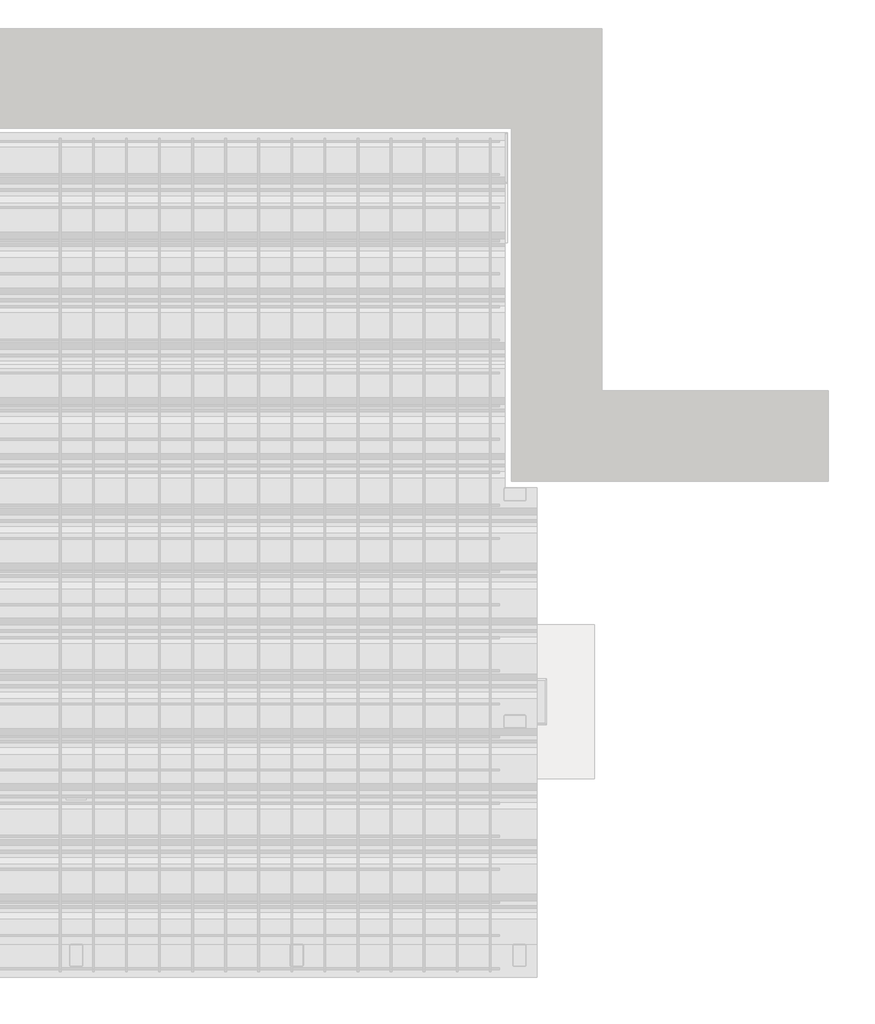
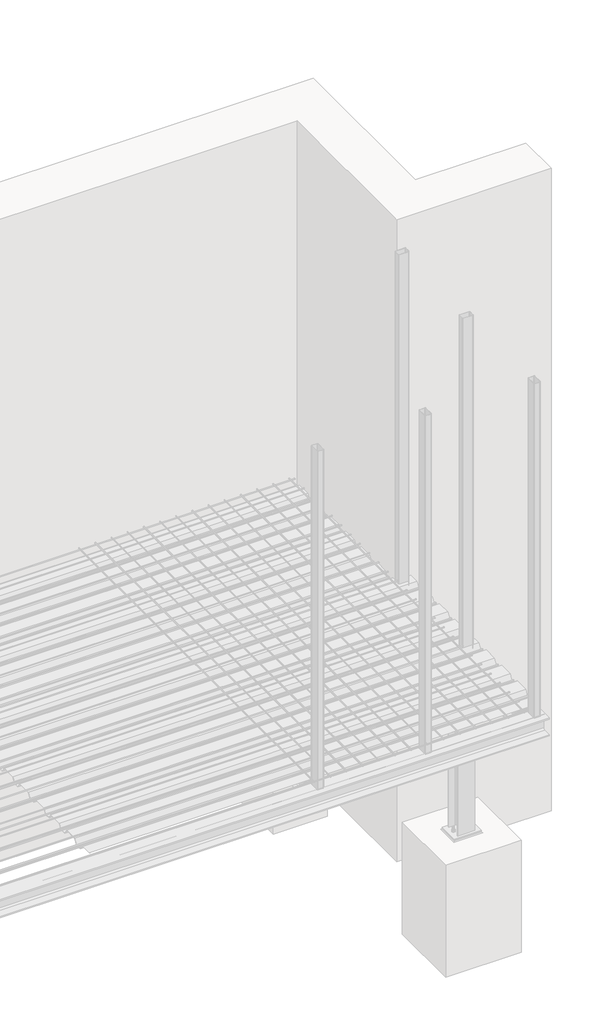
# One storey, part 36 of 36: 3 assemblies.
"""IFC4 building model written with IfcOpenShell, lengths in millimetres."""

from ifc_helpers import new_model, si_unit, point, frame, frame_2d, origin, place, context, project, spatial, polyline, circle_curve, ellipse_curve, trimmed, segment, composite_curve, outline, extrude, faceted_brep, element, save
from ifc_brep_helpers import plane_surface, revolved_surface, advanced_brep

model = new_model("IFC4")

# Units and contexts
model_context = context("Model", 3, world=origin())
ifc_project = project(units=[si_unit("LENGTHUNIT", "METRE", prefix="MILLI")], contexts=[model_context])

# Site, building, storey
site = spatial("IfcSite", under=ifc_project)
building = spatial("IfcBuilding", under=site)
storey = spatial("IfcBuildingStorey", under=building, Name="Základy", Elevation=-1200.0)

# Assemblies
placement = place(None, origin())
element("IfcElementAssembly", 1, at=placement, inside=storey, context=model_context, shape_type="SolidModel", body=[
    advanced_brep(
    [(16140.0, 210.0, -160.0), (15960.0, 210.0, -160.0), (15960.0, 210.0, -174.0), (16030.75, 210.0, -174.0), (16045.75, 210.0, -189.0), (16045.75, 210.0, -311.0), (16030.75, 210.0, -326.0), (15960.0, 210.0, -326.0), (15960.0, 210.0, -340.0), (16140.0, 210.0, -340.0), (16140.0, 210.0, -326.0), (16069.25, 210.0, -326.0), (16054.25, 210.0, -311.0), (16054.25, 210.0, -189.0), (16069.25, 210.0, -174.0), (16140.0, 210.0, -174.0), (16140.0, 2230.0, -160.0), (15960.0, 2050.0, -160.0), (15960.0, 2050.0, -174.0), (16030.75, 2120.75, -174.0), (16045.75, 2135.75, -189.0), (16045.75, 2135.75, -311.0), (16030.75, 2120.75, -326.0), (15960.0, 2050.0, -326.0), (15960.0, 2050.0, -340.0), (16140.0, 2230.0, -340.0), (16140.0, 2230.0, -326.0), (16069.25, 2159.25, -326.0), (16054.25, 2144.25, -311.0), (16054.25, 2144.25, -189.0), (16069.25, 2159.25, -174.0), (16140.0, 2230.0, -174.0)],
    [
        (0, 1),
        (1, 2),
        (2, 3),
        (3, 4, circle_curve(frame((16030.75, 210.0, -189.0), z_axis=(0.0, 1.0, 0.0), x_axis=(-1.0, 0.0, 0.0)), 15.0)),
        (4, 5),
        (5, 6, circle_curve(frame((16030.75, 210.0, -311.0), z_axis=(0.0, 1.0, 0.0), x_axis=(-1.0, 0.0, 0.0)), 15.0)),
        (6, 7),
        (7, 8),
        (8, 9),
        (9, 10),
        (10, 11),
        (11, 12, circle_curve(frame((16069.25, 210.0, -311.0), z_axis=(0.0, 1.0, 0.0), x_axis=(-1.0, 0.0, 0.0)), 15.0)),
        (12, 13),
        (13, 14, circle_curve(frame((16069.25, 210.0, -189.0), z_axis=(0.0, 1.0, 0.0), x_axis=(-1.0, 0.0, 0.0)), 15.0)),
        (14, 15),
        (15, 0),
        (0, 16),
        (16, 17),
        (17, 1),
        (17, 18),
        (18, 2),
        (18, 19),
        (19, 3),
        (19, 20, ellipse_curve(frame((16030.75, 2120.75, -189.0), z_axis=(-0.7071067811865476, 0.7071067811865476, 0.0), x_axis=(0.7071067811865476, 0.7071067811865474, 0.0)), 21.2132034, 15.0)),
        (20, 4),
        (20, 21),
        (21, 5),
        (21, 22, ellipse_curve(frame((16030.75, 2120.75, -311.0), z_axis=(-0.7071067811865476, 0.7071067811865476, 0.0), x_axis=(0.7071067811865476, 0.7071067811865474, 0.0)), 21.2132034, 15.0)),
        (22, 6),
        (22, 23),
        (23, 7),
        (23, 24),
        (24, 8),
        (24, 25),
        (25, 9),
        (25, 26),
        (26, 10),
        (26, 27),
        (27, 11),
        (27, 28, ellipse_curve(frame((16069.25, 2159.25, -311.0), z_axis=(-0.7071067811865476, 0.7071067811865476, 0.0), x_axis=(0.7071067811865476, 0.7071067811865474, 0.0)), 21.2132034, 15.0)),
        (28, 12),
        (28, 29),
        (29, 13),
        (29, 30, ellipse_curve(frame((16069.25, 2159.25, -189.0), z_axis=(-0.7071067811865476, 0.7071067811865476, 0.0), x_axis=(0.7071067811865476, 0.7071067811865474, 0.0)), 21.2132034, 15.0)),
        (30, 14),
        (30, 31),
        (31, 15),
        (31, 16),
    ],
    [
        plane_surface(frame((16050.0, 210.0, -250.0), z_axis=(0.0, -1.0, 0.0), x_axis=(0.0, 0.0, -1.0))),
        plane_surface(frame((16140.0, 210.0, -160.0), z_axis=(0.0, 0.0, 1.0), x_axis=(0.0, 1.0, 0.0))),
        plane_surface(frame((15960.0, 210.0, -160.0), z_axis=(-1.0, 0.0, 0.0), x_axis=(0.0, 1.0, 0.0))),
        plane_surface(frame((15960.0, 210.0, -174.0), z_axis=(0.0, 0.0, -1.0), x_axis=(0.0, 1.0, 0.0))),
        revolved_surface(polyline([(16015.75, 2135.75, -189.0), (16015.75, 210.0, -189.0)]), (16030.75, 2240.0, -189.0), (0.0, 1.0, 0.0)),
        plane_surface(frame((16045.75, 210.0, -189.0), z_axis=(-1.0, 0.0, 0.0), x_axis=(0.0, 1.0, 0.0))),
        revolved_surface(polyline([(16015.75, 2135.75, -311.0), (16015.75, 210.0, -311.0)]), (16030.75, 2240.0, -311.0), (0.0, 1.0, 0.0)),
        plane_surface(frame((16030.75, 210.0, -326.0), z_axis=(0.0, 0.0, 1.0), x_axis=(0.0, 1.0, 0.0))),
        plane_surface(frame((15960.0, 210.0, -326.0), z_axis=(-1.0, 0.0, 0.0), x_axis=(0.0, 1.0, 0.0))),
        plane_surface(frame((15960.0, 210.0, -340.0), z_axis=(0.0, 0.0, -1.0), x_axis=(0.0, 1.0, 0.0))),
        plane_surface(frame((16140.0, 210.0, -340.0), z_axis=(1.0, 0.0, 0.0), x_axis=(0.0, 1.0, 0.0))),
        plane_surface(frame((16140.0, 210.0, -326.0), z_axis=(0.0, 0.0, 1.0), x_axis=(0.0, 1.0, 0.0))),
        revolved_surface(polyline([(16054.25, 2174.2499999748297, -311.0), (16054.25, 210.0, -311.0)]), (16069.25, 2240.0, -311.0), (0.0, 1.0, 0.0)),
        plane_surface(frame((16054.25, 210.0, -311.0), z_axis=(1.0, 0.0, 0.0), x_axis=(0.0, 1.0, 0.0))),
        revolved_surface(polyline([(16054.25, 2174.2499999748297, -189.0), (16054.25, 210.0, -189.0)]), (16069.25, 2240.0, -189.0), (0.0, 1.0, 0.0)),
        plane_surface(frame((16069.25, 210.0, -174.0), z_axis=(0.0, 0.0, -1.0), x_axis=(0.0, 1.0, 0.0))),
        plane_surface(frame((16140.0, 210.0, -174.0), z_axis=(1.0, 0.0, 0.0), x_axis=(0.0, 1.0, 0.0))),
        plane_surface(frame((16150.0, 2240.0, -360.0), z_axis=(-0.7071067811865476, 0.7071067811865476, 0.0), x_axis=(0.7071067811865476, 0.7071067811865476, 0.0))),
    ],
    [
        (0, [[1, 2, 3, 4, 5, 6, 7, 8, 9, 10, 11, 12, 13, 14, 15, 16]]),
        (1, [[-1, 17, 18, 19]]),
        (2, [[-2, -19, 20, 21]]),
        (3, [[-3, -21, 22, 23]]),
        (4, [[-4, -23, 24, 25]]),
        (5, [[-5, -25, 26, 27]]),
        (6, [[-6, -27, 28, 29]]),
        (7, [[-7, -29, 30, 31]]),
        (8, [[-8, -31, 32, 33]]),
        (9, [[-9, -33, 34, 35]]),
        (10, [[-10, -35, 36, 37]]),
        (11, [[-11, -37, 38, 39]]),
        (12, [[-12, -39, 40, 41]]),
        (13, [[-13, -41, 42, 43]]),
        (14, [[-14, -43, 44, 45]]),
        (15, [[-15, -45, 46, 47]]),
        (16, [[-16, -47, 48, -17]]),
        (17, [[-18, -48, -46, -44, -42, -40, -38, -36, -34, -32, -30, -28, -26, -24, -22, -20]]),
    ],
),
    extrude(outline(polyline([(15950.0, 1170.0), (15950.0, 1350.0), (15960.0, 1350.0), (15960.0, 1170.0), (15950.0, 1170.0)])), frame((0.0, 0.0, -332.0), z_axis=(0.0, 0.0, 1.0), x_axis=(1.0, 0.0, 0.0)), (0.0, 0.0, 1.0), 164.0),
    extrude(outline(composite_curve([segment(polyline([(-174.0, 15960.0), (-326.0, 15960.0), (-326.0, 16020.5)]), True, "CONTINUOUS"), segment(trimmed(circle_curve(frame_2d((-326.0, 16045.5)), 25.0), [point((-326.0, 16020.5))], [point((-301.0, 16045.5))], True, "CARTESIAN"), True, "CONTINUOUS"), segment(polyline([(-301.0, 16045.5), (-199.0, 16045.5)]), True, "CONTINUOUS"), segment(trimmed(circle_curve(frame_2d((-174.0, 16045.5)), 25.0), [point((-199.0, 16045.5))], [point((-174.0, 16020.5))], True, "CARTESIAN"), True, "CONTINUOUS"), segment(polyline([(-174.0, 16020.5), (-174.0, 15960.0)]), True, "CONTINUOUS")], self_intersect=False)), frame((0.0, 1256.0, 0.0), z_axis=(0.0, 1.0, 0.0), x_axis=(0.0, 0.0, 1.0)), (0.0, 0.0, 1.0), 8.0),
    extrude(outline(polyline([(15960.0, 210.0), (16140.0, 210.0), (16140.0, 200.0), (15960.0, 200.0), (15960.0, 210.0)])), frame((0.0, 0.0, -332.0), z_axis=(0.0, 0.0, 1.0), x_axis=(1.0, 0.0, 0.0)), (0.0, 0.0, 1.0), 164.0),
    extrude(outline(composite_curve([segment(trimmed(circle_curve(frame_2d((1215.0, -210.0)), 8.5), [point((1215.0, -218.5))], [point((1215.0, -201.5))], False, "CARTESIAN"), True, "CONTINUOUS"), segment(trimmed(circle_curve(frame_2d((1215.0, -210.0)), 8.5), [point((1215.0, -201.5))], [point((1215.0, -218.5))], False, "CARTESIAN"), True, "CONTINUOUS")], self_intersect=False)), frame((15949.9, 0.0, 0.0), z_axis=(1.0, 0.0, 0.0), x_axis=(0.0, 1.0, 0.0)), (0.0, 0.0, 1.0), 10.0),
    extrude(outline(polyline([(1215.0, -223.8564065), (1203.0, -216.9282032), (1203.0, -203.0717968), (1215.0, -196.1435935), (1227.0, -203.0717968), (1227.0, -216.9282032), (1215.0, -223.8564065)])), frame((15963.0, 0.0, 0.0), z_axis=(1.0, 0.0, 0.0), x_axis=(0.0, 1.0, 0.0)), (0.0, 0.0, 1.0), 10.0),
    extrude(outline(composite_curve([segment(trimmed(circle_curve(frame_2d((1215.0, -210.0)), 8.0), [point((1215.0, -218.0))], [point((1215.0, -202.0))], False, "CARTESIAN"), True, "CONTINUOUS"), segment(trimmed(circle_curve(frame_2d((1215.0, -210.0)), 8.0), [point((1215.0, -202.0))], [point((1215.0, -218.0))], False, "CARTESIAN"), True, "CONTINUOUS")], self_intersect=False)), frame((15918.0, 0.0, 0.0), z_axis=(1.0, 0.0, 0.0), x_axis=(0.0, 1.0, 0.0)), (0.0, 0.0, 1.0), 45.0),
    extrude(outline(composite_curve([segment(trimmed(circle_curve(frame_2d((1215.0, -210.0)), 15.0), [point((1215.0, -225.0))], [point((1215.0, -195.0))], False, "CARTESIAN"), True, "CONTINUOUS"), segment(trimmed(circle_curve(frame_2d((1215.0, -210.0)), 15.0), [point((1215.0, -195.0))], [point((1215.0, -225.0))], False, "CARTESIAN"), True, "CONTINUOUS")], self_intersect=False)), frame((15960.0, 0.0, 0.0), z_axis=(1.0, 0.0, 0.0), x_axis=(0.0, 1.0, 0.0)), (0.0, 0.0, 1.0), 3.0),
    extrude(outline(composite_curve([segment(trimmed(circle_curve(frame_2d((1215.0, -210.0)), 15.0), [point((1215.0, -225.0))], [point((1215.0, -195.0))], False, "CARTESIAN"), True, "CONTINUOUS"), segment(trimmed(circle_curve(frame_2d((1215.0, -210.0)), 15.0), [point((1215.0, -195.0))], [point((1215.0, -225.0))], False, "CARTESIAN"), True, "CONTINUOUS")], self_intersect=False)), frame((15937.0, 0.0, 0.0), z_axis=(1.0, 0.0, 0.0), x_axis=(0.0, 1.0, 0.0)), (0.0, 0.0, 1.0), 3.0),
    extrude(outline(polyline([(1215.0, -225.4441197), (1201.625, -217.7220599), (1201.625, -202.2779401), (1215.0, -194.5558803), (1228.375, -202.2779401), (1228.375, -217.7220599), (1215.0, -225.4441197)])), frame((15924.0, 0.0, 0.0), z_axis=(1.0, 0.0, 0.0), x_axis=(0.0, 1.0, 0.0)), (0.0, 0.0, 1.0), 13.0),
    extrude(outline(composite_curve([segment(trimmed(circle_curve(frame_2d((1215.0, -210.0)), 8.5), [point((1215.0, -218.5))], [point((1215.0, -201.5))], False, "CARTESIAN"), True, "CONTINUOUS"), segment(trimmed(circle_curve(frame_2d((1215.0, -210.0)), 8.5), [point((1215.0, -201.5))], [point((1215.0, -218.5))], False, "CARTESIAN"), True, "CONTINUOUS")], self_intersect=False)), frame((15940.0, 0.0, 0.0), z_axis=(1.0, 0.0, 0.0), x_axis=(0.0, 1.0, 0.0)), (0.0, 0.0, 1.0), 10.1),
    extrude(outline(composite_curve([segment(trimmed(circle_curve(frame_2d((1215.0, -290.0)), 8.5), [point((1215.0, -298.5))], [point((1215.0, -281.5))], False, "CARTESIAN"), True, "CONTINUOUS"), segment(trimmed(circle_curve(frame_2d((1215.0, -290.0)), 8.5), [point((1215.0, -281.5))], [point((1215.0, -298.5))], False, "CARTESIAN"), True, "CONTINUOUS")], self_intersect=False)), frame((15949.9, 0.0, 0.0), z_axis=(1.0, 0.0, 0.0), x_axis=(0.0, 1.0, 0.0)), (0.0, 0.0, 1.0), 10.0),
    extrude(outline(polyline([(1215.0, -303.8564065), (1203.0, -296.9282032), (1203.0, -283.0717968), (1215.0, -276.1435935), (1227.0, -283.0717968), (1227.0, -296.9282032), (1215.0, -303.8564065)])), frame((15963.0, 0.0, 0.0), z_axis=(1.0, 0.0, 0.0), x_axis=(0.0, 1.0, 0.0)), (0.0, 0.0, 1.0), 10.0),
    extrude(outline(composite_curve([segment(trimmed(circle_curve(frame_2d((1215.0, -290.0)), 8.0), [point((1215.0, -298.0))], [point((1215.0, -282.0))], False, "CARTESIAN"), True, "CONTINUOUS"), segment(trimmed(circle_curve(frame_2d((1215.0, -290.0)), 8.0), [point((1215.0, -282.0))], [point((1215.0, -298.0))], False, "CARTESIAN"), True, "CONTINUOUS")], self_intersect=False)), frame((15918.0, 0.0, 0.0), z_axis=(1.0, 0.0, 0.0), x_axis=(0.0, 1.0, 0.0)), (0.0, 0.0, 1.0), 45.0),
    extrude(outline(composite_curve([segment(trimmed(circle_curve(frame_2d((1215.0, -290.0)), 15.0), [point((1215.0, -305.0))], [point((1215.0, -275.0))], False, "CARTESIAN"), True, "CONTINUOUS"), segment(trimmed(circle_curve(frame_2d((1215.0, -290.0)), 15.0), [point((1215.0, -275.0))], [point((1215.0, -305.0))], False, "CARTESIAN"), True, "CONTINUOUS")], self_intersect=False)), frame((15960.0, 0.0, 0.0), z_axis=(1.0, 0.0, 0.0), x_axis=(0.0, 1.0, 0.0)), (0.0, 0.0, 1.0), 3.0),
    extrude(outline(composite_curve([segment(trimmed(circle_curve(frame_2d((1215.0, -290.0)), 15.0), [point((1215.0, -305.0))], [point((1215.0, -275.0))], False, "CARTESIAN"), True, "CONTINUOUS"), segment(trimmed(circle_curve(frame_2d((1215.0, -290.0)), 15.0), [point((1215.0, -275.0))], [point((1215.0, -305.0))], False, "CARTESIAN"), True, "CONTINUOUS")], self_intersect=False)), frame((15937.0, 0.0, 0.0), z_axis=(1.0, 0.0, 0.0), x_axis=(0.0, 1.0, 0.0)), (0.0, 0.0, 1.0), 3.0),
    extrude(outline(polyline([(1215.0, -305.4441197), (1201.625, -297.7220599), (1201.625, -282.2779401), (1215.0, -274.5558803), (1228.375, -282.2779401), (1228.375, -297.7220599), (1215.0, -305.4441197)])), frame((15924.0, 0.0, 0.0), z_axis=(1.0, 0.0, 0.0), x_axis=(0.0, 1.0, 0.0)), (0.0, 0.0, 1.0), 13.0),
    extrude(outline(composite_curve([segment(trimmed(circle_curve(frame_2d((1215.0, -290.0)), 8.5), [point((1215.0, -298.5))], [point((1215.0, -281.5))], False, "CARTESIAN"), True, "CONTINUOUS"), segment(trimmed(circle_curve(frame_2d((1215.0, -290.0)), 8.5), [point((1215.0, -281.5))], [point((1215.0, -298.5))], False, "CARTESIAN"), True, "CONTINUOUS")], self_intersect=False)), frame((15940.0, 0.0, 0.0), z_axis=(1.0, 0.0, 0.0), x_axis=(0.0, 1.0, 0.0)), (0.0, 0.0, 1.0), 10.1),
    extrude(outline(composite_curve([segment(trimmed(circle_curve(frame_2d((1305.0, -210.0)), 8.5), [point((1305.0, -218.5))], [point((1305.0, -201.5))], False, "CARTESIAN"), True, "CONTINUOUS"), segment(trimmed(circle_curve(frame_2d((1305.0, -210.0)), 8.5), [point((1305.0, -201.5))], [point((1305.0, -218.5))], False, "CARTESIAN"), True, "CONTINUOUS")], self_intersect=False)), frame((15949.9, 0.0, 0.0), z_axis=(1.0, 0.0, 0.0), x_axis=(0.0, 1.0, 0.0)), (0.0, 0.0, 1.0), 10.0),
    extrude(outline(polyline([(1305.0, -223.8564065), (1293.0, -216.9282032), (1293.0, -203.0717968), (1305.0, -196.1435935), (1317.0, -203.0717968), (1317.0, -216.9282032), (1305.0, -223.8564065)])), frame((15963.0, 0.0, 0.0), z_axis=(1.0, 0.0, 0.0), x_axis=(0.0, 1.0, 0.0)), (0.0, 0.0, 1.0), 10.0),
    extrude(outline(composite_curve([segment(trimmed(circle_curve(frame_2d((1305.0, -210.0)), 8.0), [point((1305.0, -218.0))], [point((1305.0, -202.0))], False, "CARTESIAN"), True, "CONTINUOUS"), segment(trimmed(circle_curve(frame_2d((1305.0, -210.0)), 8.0), [point((1305.0, -202.0))], [point((1305.0, -218.0))], False, "CARTESIAN"), True, "CONTINUOUS")], self_intersect=False)), frame((15918.0, 0.0, 0.0), z_axis=(1.0, 0.0, 0.0), x_axis=(0.0, 1.0, 0.0)), (0.0, 0.0, 1.0), 45.0),
    extrude(outline(composite_curve([segment(trimmed(circle_curve(frame_2d((1305.0, -210.0)), 15.0), [point((1305.0, -225.0))], [point((1305.0, -195.0))], False, "CARTESIAN"), True, "CONTINUOUS"), segment(trimmed(circle_curve(frame_2d((1305.0, -210.0)), 15.0), [point((1305.0, -195.0))], [point((1305.0, -225.0))], False, "CARTESIAN"), True, "CONTINUOUS")], self_intersect=False)), frame((15960.0, 0.0, 0.0), z_axis=(1.0, 0.0, 0.0), x_axis=(0.0, 1.0, 0.0)), (0.0, 0.0, 1.0), 3.0),
    extrude(outline(composite_curve([segment(trimmed(circle_curve(frame_2d((1305.0, -210.0)), 15.0), [point((1305.0, -225.0))], [point((1305.0, -195.0))], False, "CARTESIAN"), True, "CONTINUOUS"), segment(trimmed(circle_curve(frame_2d((1305.0, -210.0)), 15.0), [point((1305.0, -195.0))], [point((1305.0, -225.0))], False, "CARTESIAN"), True, "CONTINUOUS")], self_intersect=False)), frame((15937.0, 0.0, 0.0), z_axis=(1.0, 0.0, 0.0), x_axis=(0.0, 1.0, 0.0)), (0.0, 0.0, 1.0), 3.0),
    extrude(outline(polyline([(1305.0, -225.4441197), (1291.625, -217.7220599), (1291.625, -202.2779401), (1305.0, -194.5558803), (1318.375, -202.2779401), (1318.375, -217.7220599), (1305.0, -225.4441197)])), frame((15924.0, 0.0, 0.0), z_axis=(1.0, 0.0, 0.0), x_axis=(0.0, 1.0, 0.0)), (0.0, 0.0, 1.0), 13.0),
    extrude(outline(composite_curve([segment(trimmed(circle_curve(frame_2d((1305.0, -210.0)), 8.5), [point((1305.0, -218.5))], [point((1305.0, -201.5))], False, "CARTESIAN"), True, "CONTINUOUS"), segment(trimmed(circle_curve(frame_2d((1305.0, -210.0)), 8.5), [point((1305.0, -201.5))], [point((1305.0, -218.5))], False, "CARTESIAN"), True, "CONTINUOUS")], self_intersect=False)), frame((15940.0, 0.0, 0.0), z_axis=(1.0, 0.0, 0.0), x_axis=(0.0, 1.0, 0.0)), (0.0, 0.0, 1.0), 10.1),
    extrude(outline(composite_curve([segment(trimmed(circle_curve(frame_2d((1305.0, -290.0)), 8.5), [point((1305.0, -298.5))], [point((1305.0, -281.5))], False, "CARTESIAN"), True, "CONTINUOUS"), segment(trimmed(circle_curve(frame_2d((1305.0, -290.0)), 8.5), [point((1305.0, -281.5))], [point((1305.0, -298.5))], False, "CARTESIAN"), True, "CONTINUOUS")], self_intersect=False)), frame((15949.9, 0.0, 0.0), z_axis=(1.0, 0.0, 0.0), x_axis=(0.0, 1.0, 0.0)), (0.0, 0.0, 1.0), 10.0),
    extrude(outline(polyline([(1305.0, -303.8564065), (1293.0, -296.9282032), (1293.0, -283.0717968), (1305.0, -276.1435935), (1317.0, -283.0717968), (1317.0, -296.9282032), (1305.0, -303.8564065)])), frame((15963.0, 0.0, 0.0), z_axis=(1.0, 0.0, 0.0), x_axis=(0.0, 1.0, 0.0)), (0.0, 0.0, 1.0), 10.0),
    extrude(outline(composite_curve([segment(trimmed(circle_curve(frame_2d((1305.0, -290.0)), 8.0), [point((1305.0, -298.0))], [point((1305.0, -282.0))], False, "CARTESIAN"), True, "CONTINUOUS"), segment(trimmed(circle_curve(frame_2d((1305.0, -290.0)), 8.0), [point((1305.0, -282.0))], [point((1305.0, -298.0))], False, "CARTESIAN"), True, "CONTINUOUS")], self_intersect=False)), frame((15918.0, 0.0, 0.0), z_axis=(1.0, 0.0, 0.0), x_axis=(0.0, 1.0, 0.0)), (0.0, 0.0, 1.0), 45.0),
    extrude(outline(composite_curve([segment(trimmed(circle_curve(frame_2d((1305.0, -290.0)), 15.0), [point((1305.0, -305.0))], [point((1305.0, -275.0))], False, "CARTESIAN"), True, "CONTINUOUS"), segment(trimmed(circle_curve(frame_2d((1305.0, -290.0)), 15.0), [point((1305.0, -275.0))], [point((1305.0, -305.0))], False, "CARTESIAN"), True, "CONTINUOUS")], self_intersect=False)), frame((15960.0, 0.0, 0.0), z_axis=(1.0, 0.0, 0.0), x_axis=(0.0, 1.0, 0.0)), (0.0, 0.0, 1.0), 3.0),
    extrude(outline(composite_curve([segment(trimmed(circle_curve(frame_2d((1305.0, -290.0)), 15.0), [point((1305.0, -305.0))], [point((1305.0, -275.0))], False, "CARTESIAN"), True, "CONTINUOUS"), segment(trimmed(circle_curve(frame_2d((1305.0, -290.0)), 15.0), [point((1305.0, -275.0))], [point((1305.0, -305.0))], False, "CARTESIAN"), True, "CONTINUOUS")], self_intersect=False)), frame((15937.0, 0.0, 0.0), z_axis=(1.0, 0.0, 0.0), x_axis=(0.0, 1.0, 0.0)), (0.0, 0.0, 1.0), 3.0),
    extrude(outline(polyline([(1305.0, -305.4441197), (1291.625, -297.7220599), (1291.625, -282.2779401), (1305.0, -274.5558803), (1318.375, -282.2779401), (1318.375, -297.7220599), (1305.0, -305.4441197)])), frame((15924.0, 0.0, 0.0), z_axis=(1.0, 0.0, 0.0), x_axis=(0.0, 1.0, 0.0)), (0.0, 0.0, 1.0), 13.0),
    extrude(outline(composite_curve([segment(trimmed(circle_curve(frame_2d((1305.0, -290.0)), 8.5), [point((1305.0, -298.5))], [point((1305.0, -281.5))], False, "CARTESIAN"), True, "CONTINUOUS"), segment(trimmed(circle_curve(frame_2d((1305.0, -290.0)), 8.5), [point((1305.0, -281.5))], [point((1305.0, -298.5))], False, "CARTESIAN"), True, "CONTINUOUS")], self_intersect=False)), frame((15940.0, 0.0, 0.0), z_axis=(1.0, 0.0, 0.0), x_axis=(0.0, 1.0, 0.0)), (0.0, 0.0, 1.0), 10.1),
])
element("IfcElementAssembly", 2, at=placement, inside=storey, context=model_context, shape_type="Brep", body=[
    faceted_brep([(15925.0, 1356.0, -1990.0), (15925.0, 1164.0, -1990.0), (16175.0, 1164.0, -1990.0), (16175.0, 1356.0, -1990.0), (16185.0, 1154.0, -2000.0), (15915.0, 1154.0, -2000.0), (15915.0, 1366.0, -2000.0), (16185.0, 1366.0, -2000.0)], [[[0, 1, 2, 3]], [[4, 5, 6, 7]], [[5, 4, 2, 1]], [[1, 0, 6, 5]], [[7, 6, 0, 3]], [[3, 2, 4, 7]]]),
])
element("IfcElementAssembly", 3, at=placement, inside=storey, context=model_context, shape_type="SweptSolid", body=[
    extrude(outline(composite_curve([segment(polyline([(16090.0, 2223.6), (16090.0, 2176.4)]), True, "CONTINUOUS"), segment(trimmed(circle_curve(frame_2d((16083.6, 2176.4)), 6.4), [point((16090.0, 2176.4))], [point((16083.6, 2170.0))], False, "CARTESIAN"), True, "CONTINUOUS"), segment(polyline([(16083.6, 2170.0), (15996.4, 2170.0)]), True, "CONTINUOUS"), segment(trimmed(circle_curve(frame_2d((15996.4, 2176.4)), 6.4), [point((15996.4, 2170.0))], [point((15990.0, 2176.4))], False, "CARTESIAN"), True, "CONTINUOUS"), segment(polyline([(15990.0, 2176.4), (15990.0, 2223.6)]), True, "CONTINUOUS"), segment(trimmed(circle_curve(frame_2d((15996.4, 2223.6)), 6.4), [point((15990.0, 2223.6))], [point((15996.4, 2230.0))], False, "CARTESIAN"), True, "CONTINUOUS"), segment(polyline([(15996.4, 2230.0), (16083.6, 2230.0)]), True, "CONTINUOUS"), segment(trimmed(circle_curve(frame_2d((16083.6, 2223.6)), 6.4), [point((16083.6, 2230.0))], [point((16090.0, 2223.6))], False, "CARTESIAN"), True, "CONTINUOUS")], self_intersect=False), holes=[composite_curve([segment(trimmed(circle_curve(frame_2d((16083.6, 2223.6)), 3.2), [point((16086.8, 2223.6))], [point((16083.6, 2226.8))], True, "CARTESIAN"), True, "CONTINUOUS"), segment(polyline([(16083.6, 2226.8), (15996.4, 2226.8)]), True, "CONTINUOUS"), segment(trimmed(circle_curve(frame_2d((15996.4, 2223.6)), 3.2), [point((15996.4, 2226.8))], [point((15993.2, 2223.6))], True, "CARTESIAN"), True, "CONTINUOUS"), segment(polyline([(15993.2, 2223.6), (15993.2, 2176.4)]), True, "CONTINUOUS"), segment(trimmed(circle_curve(frame_2d((15996.4, 2176.4)), 3.2), [point((15993.2, 2176.4))], [point((15996.4, 2173.2))], True, "CARTESIAN"), True, "CONTINUOUS"), segment(polyline([(15996.4, 2173.2), (16083.6, 2173.2)]), True, "CONTINUOUS"), segment(trimmed(circle_curve(frame_2d((16083.6, 2176.4)), 3.2), [point((16083.6, 2173.2))], [point((16086.8, 2176.4))], True, "CARTESIAN"), True, "CONTINUOUS"), segment(polyline([(16086.8, 2176.4), (16086.8, 2223.6)]), True, "CONTINUOUS")], self_intersect=False)]), frame((0.0, 0.0, -160.0), z_axis=(0.0, 0.0, 1.0), x_axis=(1.0, 0.0, 0.0)), (0.0, 0.0, 1.0), 3280.0),
])

save(model, "model.ifc")
